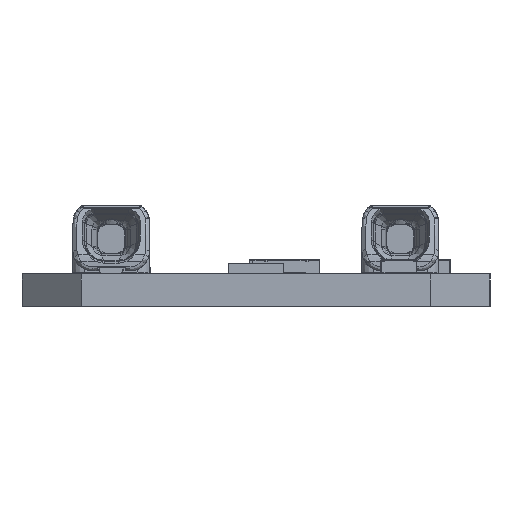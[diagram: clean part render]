
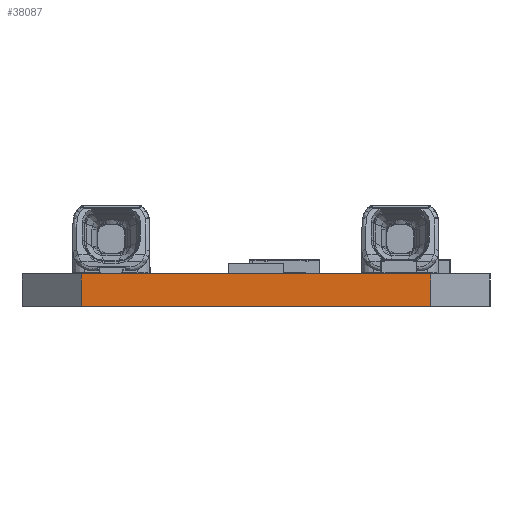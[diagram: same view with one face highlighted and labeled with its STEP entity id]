
A CAD part, left-side view. The second image highlights one B-rep face of the part: STEP entity #38087.
In plain terms, the highlighted planar face has unit normal (-1, 0, 0).
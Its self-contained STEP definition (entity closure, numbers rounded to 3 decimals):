
#1384=DIRECTION('',(0.,1.,0.));
#1385=VECTOR('',#1384,17.6);
#1386=CARTESIAN_POINT('',(-279.5,-8.8,0.));
#1387=LINE('',#1386,#1385);
#2029=DIRECTION('',(0.,0.,1.));
#2030=VECTOR('',#2029,1.65);
#2031=CARTESIAN_POINT('',(-279.5,8.8,0.));
#2032=LINE('',#2031,#2030);
#2036=DIRECTION('',(0.,0.,1.));
#2037=VECTOR('',#2036,1.65);
#2038=CARTESIAN_POINT('',(-279.5,-8.8,0.));
#2039=LINE('',#2038,#2037);
#2043=DIRECTION('',(0.,1.,0.));
#2044=VECTOR('',#2043,17.6);
#2045=CARTESIAN_POINT('',(-279.5,-8.8,1.65));
#2046=LINE('',#2045,#2044);
#32680=CARTESIAN_POINT('',(-279.5,-8.8,0.));
#32681=CARTESIAN_POINT('',(-279.5,8.8,0.));
#32682=VERTEX_POINT('',#32680);
#32683=VERTEX_POINT('',#32681);
#32719=CARTESIAN_POINT('',(-279.5,8.8,1.65));
#32721=VERTEX_POINT('',#32719);
#32772=CARTESIAN_POINT('',(-279.5,-8.8,1.65));
#32773=VERTEX_POINT('',#32772);
#38075=CARTESIAN_POINT('',(-279.5,8.8,1.65));
#38076=DIRECTION('',(-1.,0.,0.));
#38077=DIRECTION('',(0.,0.,1.));
#38078=AXIS2_PLACEMENT_3D('',#38075,#38076,#38077);
#38079=PLANE('',#38078);
#38081=ORIENTED_EDGE('',*,*,#38080,.F.);
#38082=ORIENTED_EDGE('',*,*,#37553,.T.);
#38083=ORIENTED_EDGE('',*,*,#38060,.T.);
#38084=ORIENTED_EDGE('',*,*,#36647,.F.);
#38085=EDGE_LOOP('',(#38081,#38082,#38083,#38084));
#38086=FACE_OUTER_BOUND('',#38085,.F.);
#36647=EDGE_CURVE('',#32773,#32721,#2046,.T.);
#37553=EDGE_CURVE('',#32682,#32683,#1387,.T.);
#38060=EDGE_CURVE('',#32683,#32721,#2032,.T.);
#38080=EDGE_CURVE('',#32682,#32773,#2039,.T.);
#38087=ADVANCED_FACE('',(#38086),#38079,.T.);
